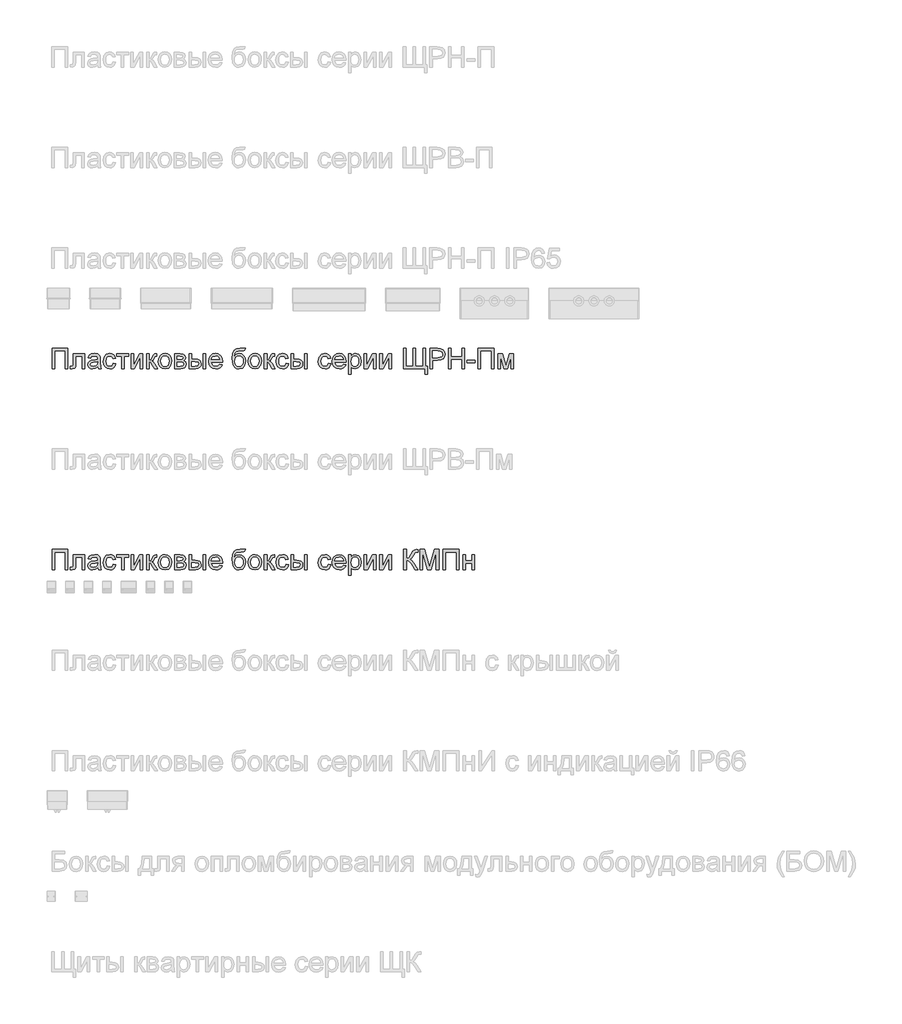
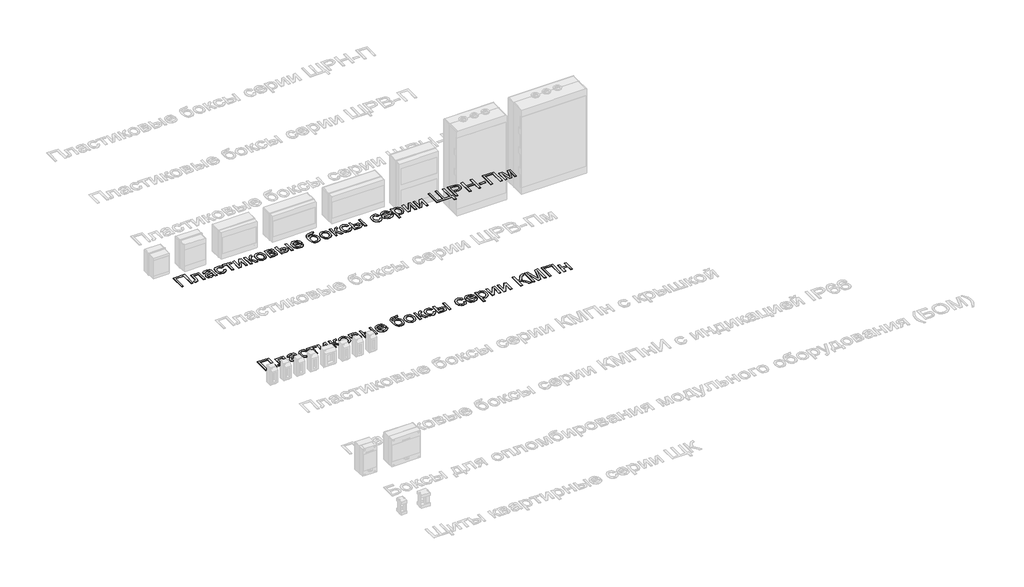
# One storey, part 23 of 25: 2 proxies.
"""IFC4 building model written with IfcOpenShell, lengths in millimetres."""

from ifc_helpers import new_model, si_unit, frame, origin, place, context, project, spatial, polyline, outline, extrude, element, save

model = new_model("IFC4")

# Units and contexts
model_context = context("Model", 3, world=origin())
ifc_project = project(units=[si_unit("LENGTHUNIT", "METRE", prefix="MILLI")], contexts=[model_context])

# Site, building, storey
site = spatial("IfcSite", under=ifc_project)
building = spatial("IfcBuilding", under=site)
storey = spatial("IfcBuildingStorey", under=building, Name="Этаж 01", Elevation=0.0)

# Proxies
placement = place(None, origin())
element("IfcBuildingElementProxy", 1, Name="Надпись на модели 1", ObjectType="Надпись на модели 1", at=placement, inside=storey, context=model_context, shape_type="SweptSolid", body=[
    extrude(outline(polyline([(-19038.1210387, 17136.6915941), (-18959.6395464, 17136.6915941), (-18959.6395464, 17036.235284), (-18972.1965852, 17036.235284), (-18972.1965852, 17124.1345554), (-19025.564, 17124.1345554), (-19025.564, 17036.235284), (-19038.1210387, 17036.235284), (-19038.1210387, 17136.6915941)])), frame((0.0, 0.0, 40.0), z_axis=(0.0, 0.0, 1.0), x_axis=(1.0, 0.0, 0.0)), (0.0, 0.0, 1.0), 2.0),
    extrude(outline(polyline([(-18932.955839, 17110.0078868), (-18876.4491646, 17110.0078868), (-18876.4491646, 17036.3088604), (-18889.0062033, 17036.3088604), (-18889.0062033, 17097.450848), (-18920.3988003, 17097.450848), (-18920.3988003, 17062.2568038), (-18921.2449289, 17046.0209451), (-18925.8925047, 17039.1660772), (-18936.8799137, 17036.235284), (-18947.0825077, 17036.8729461), (-18947.0825077, 17048.7923228), (-18941.4661759, 17048.7923228), (-18935.7885304, 17049.564875), (-18933.5199248, 17052.0174216), (-18932.955839, 17062.9680423), (-18932.955839, 17110.0078868)])), frame((0.0, 0.0, 40.0), z_axis=(0.0, 0.0, 1.0), x_axis=(1.0, 0.0, 0.0)), (0.0, 0.0, 1.0), 2.0),
    extrude(outline(polyline([(-18810.524711, 17045.6530631), (-18822.7016051, 17037.1427262), (-18836.1538234, 17034.6656541), (-18846.6476573, 17036.1555762), (-18854.3885076, 17040.6253425), (-18859.1617765, 17047.4127653), (-18860.7528661, 17055.8556571), (-18858.3493704, 17065.7884709), (-18852.0340628, 17072.998958), (-18843.2416831, 17077.1192364), (-18832.3769016, 17079.0076973), (-18810.5982874, 17083.3241794), (-18810.524711, 17086.1200825), (-18813.9828018, 17095.3907088), (-18827.8642158, 17099.0204778), (-18840.5684073, 17096.6047194), (-18846.6261975, 17088.0330689), (-18859.1832363, 17089.6026988), (-18853.7508455, 17101.8654319), (-18842.8124875, 17109.0513936), (-18826.245535, 17111.5775166), (-18811.0274831, 17109.3456992), (-18802.4313072, 17103.7416301), (-18798.5808089, 17095.2190306), (-18797.9676723, 17084.2316216), (-18797.9676723, 17068.6088996), (-18797.3300102, 17046.7934973), (-18794.8284126, 17036.235284), (-18807.3854514, 17036.235284), (-18810.524711, 17045.6530631)]), holes=[polyline([(-18810.524711, 17070.7671406), (-18830.7827462, 17066.9166424), (-18841.5862142, 17064.8810287), (-18846.4790447, 17061.5700907), (-18848.1958274, 17056.7385739), (-18844.4556937, 17049.9450197), (-18833.4805475, 17047.2226929), (-18820.776356, 17050.2270625), (-18812.5848502, 17057.4988633), (-18810.5982874, 17067.210948), (-18810.524711, 17070.7671406)])]), frame((0.0, 0.0, 40.0), z_axis=(0.0, 0.0, 1.0), x_axis=(1.0, 0.0, 0.0)), (0.0, 0.0, 1.0), 2.0),
    extrude(outline(polyline([(-18733.6128486, 17062.9189914), (-18721.0558098, 17061.3493615), (-18724.5568201, 17050.1810773), (-18731.1357765, 17041.7412512), (-18740.1734108, 17036.4345534), (-18751.0504552, 17034.6656541), (-18764.4076373, 17037.1335292), (-18774.8524202, 17044.5371544), (-18781.5938578, 17056.5515672), (-18783.8410037, 17072.8518052), (-18780.0027682, 17093.7107144), (-18768.3041207, 17107.1138817), (-18751.2221334, 17111.5775166), (-18740.6118035, 17110.044675), (-18732.1290579, 17105.44615), (-18726.0436765, 17098.0271964), (-18722.6254397, 17088.0330689), (-18735.1824784, 17086.4634391), (-18741.0072767, 17095.8689554), (-18751.1240316, 17099.0204778), (-18759.2388952, 17097.4692421), (-18765.6798958, 17092.8155349), (-18769.8829476, 17084.8079701), (-18771.2839649, 17073.1951618), (-18769.9136045, 17061.4260036), (-18765.8025232, 17053.3908477), (-18759.4780185, 17048.7647316), (-18751.4673881, 17047.2226929), (-18739.6338506, 17051.0731911), (-18733.6128486, 17062.9189914)])), frame((0.0, 0.0, 40.0), z_axis=(0.0, 0.0, 1.0), x_axis=(1.0, 0.0, 0.0)), (0.0, 0.0, 1.0), 2.0),
    extrude(outline(polyline([(-18716.3469203, 17110.0078868), (-18656.7009861, 17110.0078868), (-18656.7009861, 17097.450848), (-18680.2454338, 17097.450848), (-18680.2454338, 17036.235284), (-18692.8024726, 17036.235284), (-18692.8024726, 17097.450848), (-18716.3469203, 17097.450848), (-18716.3469203, 17110.0078868)])), frame((0.0, 0.0, 40.0), z_axis=(0.0, 0.0, 1.0), x_axis=(1.0, 0.0, 0.0)), (0.0, 0.0, 1.0), 2.0),
    extrude(outline(polyline([(-18645.7135772, 17110.0078868), (-18633.1565384, 17110.0078868), (-18633.1565384, 17053.746467), (-18602.3035018, 17110.0078868), (-18586.0676431, 17110.0078868), (-18586.0676431, 17036.235284), (-18598.6246818, 17036.235284), (-18598.6246818, 17092.1533473), (-18629.2815148, 17036.235284), (-18645.7135772, 17036.235284), (-18645.7135772, 17110.0078868)])), frame((0.0, 0.0, 40.0), z_axis=(0.0, 0.0, 1.0), x_axis=(1.0, 0.0, 0.0)), (0.0, 0.0, 1.0), 2.0),
    extrude(outline(polyline([(-18567.2320849, 17110.0078868), (-18554.6750461, 17110.0078868), (-18554.6750461, 17078.6152898), (-18546.2628112, 17080.8716327), (-18539.3711551, 17094.0172827), (-18533.6444587, 17105.3603109), (-18528.5922127, 17109.0513936), (-18519.4074255, 17110.0078868), (-18517.0039298, 17110.0078868), (-18517.0039298, 17097.3772716), (-18520.3884442, 17097.450848), (-18526.5198108, 17096.1264728), (-18530.8362928, 17087.8613906), (-18535.9008016, 17078.9218582), (-18543.0009242, 17074.5440624), (-18535.0791985, 17069.6573633), (-18527.3046257, 17059.3627988), (-18513.8646701, 17036.235284), (-18528.1384915, 17036.235284), (-18541.308667, 17058.8722894), (-18547.9305429, 17068.449484), (-18554.6750461, 17070.7671406), (-18554.6750461, 17036.235284), (-18567.2320849, 17036.235284), (-18567.2320849, 17110.0078868)])), frame((0.0, 0.0, 40.0), z_axis=(0.0, 0.0, 1.0), x_axis=(1.0, 0.0, 0.0)), (0.0, 0.0, 1.0), 2.0),
    extrude(outline(polyline([(-18509.1557806, 17073.1215854), (-18506.4395852, 17090.9086798), (-18498.290999, 17103.4105363), (-18488.2232951, 17109.5357715), (-18476.1690284, 17111.5775166), (-18462.9773932, 17109.0912475), (-18452.4406397, 17101.63244), (-18445.5336552, 17089.7897054), (-18443.2313271, 17074.151655), (-18447.3025545, 17051.8089551), (-18459.1606175, 17039.1660772), (-18476.1690284, 17034.6656541), (-18489.5200791, 17037.1427262), (-18500.0445698, 17044.5739426), (-18506.8779779, 17056.6649975), (-18509.1557806, 17073.1215854)]), holes=[polyline([(-18496.5987418, 17073.1461108), (-18495.1456079, 17061.7816229), (-18490.7862063, 17053.6851533), (-18484.2256441, 17048.838308), (-18476.1690284, 17047.2226929), (-18468.1492009, 17048.8475051), (-18461.6009014, 17053.7219415), (-18457.2414997, 17061.92571), (-18455.7883658, 17073.5385183), (-18457.2506968, 17084.5719125), (-18461.6376896, 17092.5580175), (-18468.1951861, 17097.4048627), (-18476.1690284, 17099.0204778), (-18484.2256441, 17097.4109941), (-18490.7862063, 17092.5825429), (-18495.1456079, 17084.5044674), (-18496.5987418, 17073.1461108)])]), frame((0.0, 0.0, 40.0), z_axis=(0.0, 0.0, 1.0), x_axis=(1.0, 0.0, 0.0)), (0.0, 0.0, 1.0), 2.0),
    extrude(outline(polyline([(-18429.1046584, 17110.0078868), (-18401.4399324, 17110.0078868), (-18386.2709315, 17108.3278923), (-18377.7360692, 17102.1720003), (-18374.1676138, 17091.4421087), (-18376.3258549, 17082.7233055), (-18382.8251035, 17076.5060997), (-18374.388343, 17069.7002828), (-18371.0283541, 17057.8667453), (-18373.1559383, 17048.2956821), (-18378.2143158, 17041.5573102), (-18386.2218805, 17037.5657905), (-18397.1970267, 17036.235284), (-18429.1046584, 17036.235284), (-18429.1046584, 17110.0078868)]), holes=[polyline([(-18416.5476197, 17048.7923228), (-18401.1456268, 17048.7923228), (-18387.4849421, 17051.0609284), (-18383.5853929, 17058.8968149), (-18385.7313712, 17064.9423424), (-18391.3231775, 17068.4617468), (-18402.3719001, 17069.1975108), (-18416.5476197, 17069.1975108), (-18416.5476197, 17048.7923228)]), polyline([(-18416.5476197, 17081.7545495), (-18404.1377337, 17081.7545495), (-18393.8983515, 17082.3922117), (-18388.9196818, 17084.9428602), (-18386.7246526, 17089.5536478), (-18390.5751508, 17095.7095399), (-18403.7453262, 17097.450848), (-18416.5476197, 17097.450848), (-18416.5476197, 17081.7545495)])]), frame((0.0, 0.0, 40.0), z_axis=(0.0, 0.0, 1.0), x_axis=(1.0, 0.0, 0.0)), (0.0, 0.0, 1.0), 2.0),
    extrude(outline(polyline([(-18286.2683425, 17110.0078868), (-18273.7113037, 17110.0078868), (-18273.7113037, 17036.235284), (-18286.2683425, 17036.235284), (-18286.2683425, 17110.0078868)])), frame((0.0, 0.0, 40.0), z_axis=(0.0, 0.0, 1.0), x_axis=(1.0, 0.0, 0.0)), (0.0, 0.0, 1.0), 2.0),
    extrude(outline(polyline([(-18355.3320557, 17110.0078868), (-18342.7750169, 17110.0078868), (-18342.7750169, 17083.3241794), (-18327.2503967, 17083.3241794), (-18313.8319009, 17081.7514838), (-18303.88989, 17077.0333973), (-18297.7370637, 17069.5500643), (-18295.6861215, 17059.6816298), (-18297.4059699, 17050.6961121), (-18302.5655148, 17043.1146773), (-18311.5019816, 17037.9551323), (-18324.5525954, 17036.235284), (-18355.3320557, 17036.235284), (-18355.3320557, 17110.0078868)]), holes=[polyline([(-18342.7750169, 17048.7923228), (-18329.8746216, 17048.7923228), (-18313.22183, 17051.4288104), (-18308.2431603, 17059.6571044), (-18311.934243, 17067.3826263), (-18328.2314154, 17070.7671406), (-18342.7750169, 17070.7671406), (-18342.7750169, 17048.7923228)])]), frame((0.0, 0.0, 40.0), z_axis=(0.0, 0.0, 1.0), x_axis=(1.0, 0.0, 0.0)), (0.0, 0.0, 1.0), 2.0),
    extrude(outline(polyline([(-18203.2251134, 17058.2101018), (-18190.9133293, 17056.640472), (-18195.349373, 17047.3637143), (-18202.4280358, 17040.4291387), (-18211.9899019, 17036.1065253), (-18223.8755561, 17034.6656541), (-18238.60923, 17037.1519233), (-18249.9461268, 17044.6107308), (-18257.175008, 17056.5576985), (-18259.5846351, 17072.5084487), (-18257.1504825, 17088.9956935), (-18249.8480249, 17101.3258717), (-18238.6644123, 17109.0146054), (-18224.5867946, 17111.5775166), (-18210.9475696, 17109.0207367), (-18200.0490655, 17101.3503971), (-18192.9029578, 17089.0447444), (-18190.5209218, 17072.5820251), (-18190.5944982, 17069.1975108), (-18247.0275963, 17069.1975108), (-18244.8540268, 17059.7981258), (-18239.8048465, 17052.8880756), (-18232.5177173, 17048.6390386), (-18223.6303014, 17047.2226929), (-18211.3185173, 17049.8469178), (-18203.2251134, 17058.2101018)]), holes=[polyline([(-18247.0275963, 17081.7545495), (-18203.0779606, 17081.7545495), (-18208.1056812, 17093.1343659), (-18215.4265329, 17097.5489499), (-18224.6358455, 17099.0204778), (-18240.0991521, 17094.323851), (-18244.9643914, 17088.8332123), (-18247.0275963, 17081.7545495)])]), frame((0.0, 0.0, 40.0), z_axis=(0.0, 0.0, 1.0), x_axis=(1.0, 0.0, 0.0)), (0.0, 0.0, 1.0), 2.0),
    extrude(outline(polyline([(-18086.925352, 17138.261224), (-18075.9379431, 17138.261224), (-18079.1753046, 17128.4633002), (-18085.5764513, 17124.9193703), (-18100.9539187, 17124.1345554), (-18121.6656751, 17121.2405503), (-18129.6119262, 17111.9699241), (-18132.2974647, 17095.5623871), (-18121.4204204, 17107.5798656), (-18107.4041164, 17111.5775166), (-18094.3381742, 17109.0360652), (-18083.7370414, 17101.4117108), (-18076.7104953, 17089.4524803), (-18074.3683132, 17073.9064003), (-18079.0158891, 17052.2994644), (-18090.0400862, 17039.2641791), (-18107.4041164, 17034.6656541), (-18118.7379475, 17036.1463792), (-18127.2329559, 17040.5885543), (-18138.0854748, 17055.7452925), (-18141.8623966, 17087.9104416), (-18139.4803607, 17112.0036466), (-18132.3342529, 17126.6974666), (-18120.2462637, 17134.1930623), (-18103.0385834, 17136.6915941), (-18089.0590676, 17136.973637), (-18086.925352, 17138.261224)]), holes=[polyline([(-18086.925352, 17074.2988078), (-18088.2865154, 17084.179505), (-18092.3700055, 17092.0920336), (-18098.9305678, 17097.2883668), (-18107.7229475, 17099.0204778), (-18116.8893405, 17097.1902649), (-18123.689026, 17091.6996261), (-18127.9012749, 17083.1494354), (-18129.3053578, 17072.1405667), (-18127.7541221, 17061.4689232), (-18123.1004149, 17053.6361024), (-18116.1719706, 17048.8260453), (-18107.7965239, 17047.2226929), (-18099.3781575, 17049.0774313), (-18092.7133621, 17054.6416465), (-18088.3723545, 17063.2654136), (-18086.925352, 17074.2988078)])]), frame((0.0, 0.0, 40.0), z_axis=(0.0, 0.0, 1.0), x_axis=(1.0, 0.0, 0.0)), (0.0, 0.0, 1.0), 2.0),
    extrude(outline(polyline([(-18061.8112745, 17073.1215854), (-18059.0950791, 17090.9086798), (-18050.9464929, 17103.4105363), (-18040.8787889, 17109.5357715), (-18028.8245222, 17111.5775166), (-18015.632887, 17109.0912475), (-18005.0961335, 17101.63244), (-17998.1891491, 17089.7897054), (-17995.8868209, 17074.151655), (-17999.9580483, 17051.8089551), (-18011.8161113, 17039.1660772), (-18028.8245222, 17034.6656541), (-18042.175573, 17037.1427262), (-18052.7000637, 17044.5739426), (-18059.5334718, 17056.6649975), (-18061.8112745, 17073.1215854)]), holes=[polyline([(-18049.2542357, 17073.1461108), (-18047.8011018, 17061.7816229), (-18043.4417002, 17053.6851533), (-18036.8811379, 17048.838308), (-18028.8245222, 17047.2226929), (-18020.8046947, 17048.8475051), (-18014.2563952, 17053.7219415), (-18009.8969936, 17061.92571), (-18008.4438597, 17073.5385183), (-18009.9061906, 17084.5719125), (-18014.2931834, 17092.5580175), (-18020.85068, 17097.4048627), (-18028.8245222, 17099.0204778), (-18036.8811379, 17097.4109941), (-18043.4417002, 17092.5825429), (-18047.8011018, 17084.5044674), (-18049.2542357, 17073.1461108)])]), frame((0.0, 0.0, 40.0), z_axis=(0.0, 0.0, 1.0), x_axis=(1.0, 0.0, 0.0)), (0.0, 0.0, 1.0), 2.0),
    extrude(outline(polyline([(-17981.7601523, 17110.0078868), (-17969.2031135, 17110.0078868), (-17969.2031135, 17078.6152898), (-17960.7908786, 17080.8716327), (-17953.8992225, 17094.0172827), (-17948.1725262, 17105.3603109), (-17943.1202801, 17109.0513936), (-17933.9354929, 17110.0078868), (-17931.5319972, 17110.0078868), (-17931.5319972, 17097.3772716), (-17934.9165116, 17097.450848), (-17941.0478782, 17096.1264728), (-17945.3643603, 17087.8613906), (-17950.4288691, 17078.9218582), (-17957.5289916, 17074.5440624), (-17949.6072659, 17069.6573633), (-17941.8326931, 17059.3627988), (-17928.3927375, 17036.235284), (-17942.666559, 17036.235284), (-17955.8367344, 17058.8722894), (-17962.4586103, 17068.449484), (-17969.2031135, 17070.7671406), (-17969.2031135, 17036.235284), (-17981.7601523, 17036.235284), (-17981.7601523, 17110.0078868)])), frame((0.0, 0.0, 40.0), z_axis=(0.0, 0.0, 1.0), x_axis=(1.0, 0.0, 0.0)), (0.0, 0.0, 1.0), 2.0),
    extrude(outline(polyline([(-17873.4556929, 17062.9189914), (-17860.8986542, 17061.3493615), (-17864.3996645, 17050.1810773), (-17870.9786208, 17041.7412512), (-17880.0162552, 17036.4345534), (-17890.8932995, 17034.6656541), (-17904.2504816, 17037.1335292), (-17914.6952646, 17044.5371544), (-17921.4367022, 17056.5515672), (-17923.683848, 17072.8518052), (-17919.8456125, 17093.7107144), (-17908.1469651, 17107.1138817), (-17891.0649778, 17111.5775166), (-17880.4546479, 17110.044675), (-17871.9719022, 17105.44615), (-17865.8865209, 17098.0271964), (-17862.468284, 17088.0330689), (-17875.0253228, 17086.4634391), (-17880.850121, 17095.8689554), (-17890.9668759, 17099.0204778), (-17899.0817396, 17097.4692421), (-17905.5227402, 17092.8155349), (-17909.725792, 17084.8079701), (-17911.1268092, 17073.1951618), (-17909.7564488, 17061.4260036), (-17905.6453675, 17053.3908477), (-17899.3208629, 17048.7647316), (-17891.3102324, 17047.2226929), (-17879.4766949, 17051.0731911), (-17873.4556929, 17062.9189914)])), frame((0.0, 0.0, 40.0), z_axis=(0.0, 0.0, 1.0), x_axis=(1.0, 0.0, 0.0)), (0.0, 0.0, 1.0), 2.0),
    extrude(outline(polyline([(-17780.847532, 17110.0078868), (-17768.2904932, 17110.0078868), (-17768.2904932, 17036.235284), (-17780.847532, 17036.235284), (-17780.847532, 17110.0078868)])), frame((0.0, 0.0, 40.0), z_axis=(0.0, 0.0, 1.0), x_axis=(1.0, 0.0, 0.0)), (0.0, 0.0, 1.0), 2.0),
    extrude(outline(polyline([(-17849.9112452, 17110.0078868), (-17837.3542065, 17110.0078868), (-17837.3542065, 17083.3241794), (-17821.8295863, 17083.3241794), (-17808.4110905, 17081.7514838), (-17798.4690796, 17077.0333973), (-17792.3162532, 17069.5500643), (-17790.2653111, 17059.6816298), (-17791.9851594, 17050.6961121), (-17797.1447044, 17043.1146773), (-17806.0811712, 17037.9551323), (-17819.131785, 17036.235284), (-17849.9112452, 17036.235284), (-17849.9112452, 17110.0078868)]), holes=[polyline([(-17837.3542065, 17048.7923228), (-17824.4538112, 17048.7923228), (-17807.8010195, 17051.4288104), (-17802.8223499, 17059.6571044), (-17806.5134325, 17067.3826263), (-17822.8106049, 17070.7671406), (-17837.3542065, 17070.7671406), (-17837.3542065, 17048.7923228)])]), frame((0.0, 0.0, 40.0), z_axis=(0.0, 0.0, 1.0), x_axis=(1.0, 0.0, 0.0)), (0.0, 0.0, 1.0), 2.0),
    extrude(outline(polyline([(-17663.1252936, 17062.9189914), (-17650.5682548, 17061.3493615), (-17654.0692651, 17050.1810773), (-17660.6482215, 17041.7412512), (-17669.6858558, 17036.4345534), (-17680.5629001, 17034.6656541), (-17693.9200822, 17037.1335292), (-17704.3648652, 17044.5371544), (-17711.1063028, 17056.5515672), (-17713.3534486, 17072.8518052), (-17709.5152131, 17093.7107144), (-17697.8165657, 17107.1138817), (-17680.7345784, 17111.5775166), (-17670.1242485, 17110.044675), (-17661.6415028, 17105.44615), (-17655.5561215, 17098.0271964), (-17652.1378846, 17088.0330689), (-17664.6949234, 17086.4634391), (-17670.5197217, 17095.8689554), (-17680.6364765, 17099.0204778), (-17688.7513402, 17097.4692421), (-17695.1923408, 17092.8155349), (-17699.3953926, 17084.8079701), (-17700.7964099, 17073.1951618), (-17699.4260494, 17061.4260036), (-17695.3149681, 17053.3908477), (-17688.9904635, 17048.7647316), (-17680.9798331, 17047.2226929), (-17669.1462955, 17051.0731911), (-17663.1252936, 17062.9189914)])), frame((0.0, 0.0, 40.0), z_axis=(0.0, 0.0, 1.0), x_axis=(1.0, 0.0, 0.0)), (0.0, 0.0, 1.0), 2.0),
    extrude(outline(polyline([(-17587.9302137, 17058.2101018), (-17575.6184296, 17056.640472), (-17580.0544734, 17047.3637143), (-17587.1331361, 17040.4291387), (-17596.6950023, 17036.1065253), (-17608.5806564, 17034.6656541), (-17623.3143303, 17037.1519233), (-17634.6512271, 17044.6107308), (-17641.8801083, 17056.5576985), (-17644.2897354, 17072.5084487), (-17641.8555829, 17088.9956935), (-17634.5531253, 17101.3258717), (-17623.3695126, 17109.0146054), (-17609.2918949, 17111.5775166), (-17595.65267, 17109.0207367), (-17584.7541658, 17101.3503971), (-17577.6080581, 17089.0447444), (-17575.2260222, 17072.5820251), (-17575.2995986, 17069.1975108), (-17631.7326966, 17069.1975108), (-17629.5591272, 17059.7981258), (-17624.5099468, 17052.8880756), (-17617.2228176, 17048.6390386), (-17608.3354017, 17047.2226929), (-17596.0236176, 17049.8469178), (-17587.9302137, 17058.2101018)]), holes=[polyline([(-17631.7326966, 17081.7545495), (-17587.7830609, 17081.7545495), (-17592.8107815, 17093.1343659), (-17600.1316332, 17097.5489499), (-17609.3409459, 17099.0204778), (-17624.8042524, 17094.323851), (-17629.6694918, 17088.8332123), (-17631.7326966, 17081.7545495)])]), frame((0.0, 0.0, 40.0), z_axis=(0.0, 0.0, 1.0), x_axis=(1.0, 0.0, 0.0)), (0.0, 0.0, 1.0), 2.0),
    extrude(outline(polyline([(-17562.6689834, 17007.9819468), (-17562.6689834, 17110.0078868), (-17550.1119446, 17110.0078868), (-17550.1119446, 17097.6961027), (-17541.4299296, 17108.1071631), (-17529.7067566, 17111.5775166), (-17513.789729, 17106.7214743), (-17503.3909312, 17093.036264), (-17499.8837896, 17073.6856711), (-17503.8446524, 17053.3417968), (-17515.3470961, 17039.4849083), (-17531.2273356, 17034.6656541), (-17542.1534308, 17037.890753), (-17550.1119446, 17046.0454705), (-17550.1119446, 17007.9819468), (-17562.6689834, 17007.9819468)]), holes=[polyline([(-17550.1119446, 17072.5329742), (-17548.7538469, 17061.2757851), (-17544.6795538, 17053.4031104), (-17538.6677489, 17048.7677973), (-17531.4971157, 17047.2226929), (-17524.2099865, 17048.8229796), (-17518.0448974, 17053.6238396), (-17513.8418456, 17061.7846886), (-17512.4408283, 17073.4649419), (-17513.8081231, 17084.6608173), (-17517.9100073, 17092.6438566), (-17523.9126152, 17097.4263225), (-17530.9820809, 17099.0204778), (-17538.0791377, 17097.325155), (-17544.3116718, 17092.2391864), (-17548.6618764, 17083.9219876), (-17550.1119446, 17072.5329742)])]), frame((0.0, 0.0, 40.0), z_axis=(0.0, 0.0, 1.0), x_axis=(1.0, 0.0, 0.0)), (0.0, 0.0, 1.0), 2.0),
    extrude(outline(polyline([(-17485.7571209, 17110.0078868), (-17473.2000822, 17110.0078868), (-17473.2000822, 17053.746467), (-17442.3470455, 17110.0078868), (-17426.1111868, 17110.0078868), (-17426.1111868, 17036.235284), (-17438.6682256, 17036.235284), (-17438.6682256, 17092.1533473), (-17469.3250585, 17036.235284), (-17485.7571209, 17036.235284), (-17485.7571209, 17110.0078868)])), frame((0.0, 0.0, 40.0), z_axis=(0.0, 0.0, 1.0), x_axis=(1.0, 0.0, 0.0)), (0.0, 0.0, 1.0), 2.0),
    extrude(outline(polyline([(-17407.2756286, 17110.0078868), (-17394.7185899, 17110.0078868), (-17394.7185899, 17053.746467), (-17363.8655532, 17110.0078868), (-17347.6296945, 17110.0078868), (-17347.6296945, 17036.235284), (-17360.1867333, 17036.235284), (-17360.1867333, 17092.1533473), (-17390.8435662, 17036.235284), (-17407.2756286, 17036.235284), (-17407.2756286, 17110.0078868)])), frame((0.0, 0.0, 40.0), z_axis=(0.0, 0.0, 1.0), x_axis=(1.0, 0.0, 0.0)), (0.0, 0.0, 1.0), 2.0),
    extrude(outline(polyline([(-17289.5533902, 17136.6915941), (-17276.9963514, 17136.6915941), (-17276.9963514, 17048.7923228), (-17240.894865, 17048.7923228), (-17240.894865, 17136.6915941), (-17228.3378262, 17136.6915941), (-17228.3378262, 17048.7923228), (-17192.2363397, 17048.7923228), (-17192.2363397, 17136.6915941), (-17179.679301, 17136.6915941), (-17179.679301, 17048.7923228), (-17170.2615219, 17048.7923228), (-17170.2615219, 17007.9819468), (-17182.8185607, 17007.9819468), (-17182.8185607, 17036.235284), (-17289.5533902, 17036.235284), (-17289.5533902, 17136.6915941)])), frame((0.0, 0.0, 40.0), z_axis=(0.0, 0.0, 1.0), x_axis=(1.0, 0.0, 0.0)), (0.0, 0.0, 1.0), 2.0),
    extrude(outline(polyline([(-17157.7044831, 17036.235284), (-17157.7044831, 17136.6915941), (-17120.4748252, 17136.6915941), (-17105.4652398, 17135.735101), (-17093.2638203, 17131.0384742), (-17085.3543574, 17121.3263895), (-17082.3622505, 17107.6289165), (-17084.3825358, 17095.7892476), (-17090.4433917, 17085.9238788), (-17101.7772228, 17079.2652147), (-17119.6164339, 17077.04566), (-17145.1474443, 17077.04566), (-17145.1474443, 17036.235284), (-17157.7044831, 17036.235284)]), holes=[polyline([(-17145.1474443, 17089.6026988), (-17118.8806699, 17089.6026988), (-17100.3884683, 17094.2134864), (-17096.286584, 17099.7623732), (-17094.9192893, 17107.1874581), (-17098.1443881, 17117.5862559), (-17106.6179367, 17123.2761641), (-17119.1749755, 17124.1345554), (-17145.1474443, 17124.1345554), (-17145.1474443, 17089.6026988)])]), frame((0.0, 0.0, 40.0), z_axis=(0.0, 0.0, 1.0), x_axis=(1.0, 0.0, 0.0)), (0.0, 0.0, 1.0), 2.0),
    extrude(outline(polyline([(-17065.0963222, 17036.235284), (-17065.0963222, 17136.6915941), (-17052.5392834, 17136.6915941), (-17052.5392834, 17095.8812181), (-16999.1718687, 17095.8812181), (-16999.1718687, 17136.6915941), (-16986.6148299, 17136.6915941), (-16986.6148299, 17036.235284), (-16999.1718687, 17036.235284), (-16999.1718687, 17083.3241794), (-17052.5392834, 17083.3241794), (-17052.5392834, 17036.235284), (-17065.0963222, 17036.235284)])), frame((0.0, 0.0, 40.0), z_axis=(0.0, 0.0, 1.0), x_axis=(1.0, 0.0, 0.0)), (0.0, 0.0, 1.0), 2.0),
    extrude(outline(polyline([(-16972.4881613, 17066.0582511), (-16972.4881613, 17078.6152898), (-16933.2474151, 17078.6152898), (-16933.2474151, 17066.0582511), (-16972.4881613, 17066.0582511)])), frame((0.0, 0.0, 40.0), z_axis=(0.0, 0.0, 1.0), x_axis=(1.0, 0.0, 0.0)), (0.0, 0.0, 1.0), 2.0),
    extrude(outline(polyline([(-16917.5511167, 17136.6915941), (-16839.0696244, 17136.6915941), (-16839.0696244, 17036.235284), (-16851.6266631, 17036.235284), (-16851.6266631, 17124.1345554), (-16904.9940779, 17124.1345554), (-16904.9940779, 17036.235284), (-16917.5511167, 17036.235284), (-16917.5511167, 17136.6915941)])), frame((0.0, 0.0, 40.0), z_axis=(0.0, 0.0, 1.0), x_axis=(1.0, 0.0, 0.0)), (0.0, 0.0, 1.0), 2.0),
    extrude(outline(polyline([(-16818.6644364, 17110.0078868), (-16797.0575005, 17110.0078868), (-16780.4047089, 17050.9505638), (-16762.4520675, 17110.0078868), (-16741.7525739, 17110.0078868), (-16741.7525739, 17036.235284), (-16754.3096127, 17036.235284), (-16754.3096127, 17095.6359635), (-16772.3603559, 17036.235284), (-16788.8414693, 17036.235284), (-16806.1073976, 17098.4809176), (-16806.1073976, 17036.235284), (-16818.6644364, 17036.235284), (-16818.6644364, 17110.0078868)])), frame((0.0, 0.0, 40.0), z_axis=(0.0, 0.0, 1.0), x_axis=(1.0, 0.0, 0.0)), (0.0, 0.0, 1.0), 2.0),
])
element("IfcBuildingElementProxy", 2, Name="Надпись на модели 1", ObjectType="Надпись на модели 1", at=placement, inside=storey, context=model_context, shape_type="SweptSolid", body=[
    extrude(outline(polyline([(-19038.1210387, 16136.6915941), (-18959.6395464, 16136.6915941), (-18959.6395464, 16036.235284), (-18972.1965852, 16036.235284), (-18972.1965852, 16124.1345554), (-19025.564, 16124.1345554), (-19025.564, 16036.235284), (-19038.1210387, 16036.235284), (-19038.1210387, 16136.6915941)])), frame((0.0, 0.0, 40.0), z_axis=(0.0, 0.0, 1.0), x_axis=(1.0, 0.0, 0.0)), (0.0, 0.0, 1.0), 2.0),
    extrude(outline(polyline([(-18932.955839, 16110.0078868), (-18876.4491646, 16110.0078868), (-18876.4491646, 16036.3088604), (-18889.0062033, 16036.3088604), (-18889.0062033, 16097.450848), (-18920.3988003, 16097.450848), (-18920.3988003, 16062.2568038), (-18921.2449289, 16046.0209451), (-18925.8925047, 16039.1660772), (-18936.8799137, 16036.235284), (-18947.0825077, 16036.8729461), (-18947.0825077, 16048.7923228), (-18941.4661759, 16048.7923228), (-18935.7885304, 16049.564875), (-18933.5199248, 16052.0174216), (-18932.955839, 16062.9680423), (-18932.955839, 16110.0078868)])), frame((0.0, 0.0, 40.0), z_axis=(0.0, 0.0, 1.0), x_axis=(1.0, 0.0, 0.0)), (0.0, 0.0, 1.0), 2.0),
    extrude(outline(polyline([(-18810.524711, 16045.6530631), (-18822.7016051, 16037.1427262), (-18836.1538234, 16034.6656541), (-18846.6476573, 16036.1555762), (-18854.3885076, 16040.6253425), (-18859.1617765, 16047.4127653), (-18860.7528661, 16055.8556571), (-18858.3493704, 16065.7884709), (-18852.0340628, 16072.998958), (-18843.2416831, 16077.1192364), (-18832.3769016, 16079.0076973), (-18810.5982874, 16083.3241794), (-18810.524711, 16086.1200825), (-18813.9828018, 16095.3907088), (-18827.8642158, 16099.0204778), (-18840.5684073, 16096.6047194), (-18846.6261975, 16088.0330689), (-18859.1832363, 16089.6026988), (-18853.7508455, 16101.8654319), (-18842.8124875, 16109.0513936), (-18826.245535, 16111.5775166), (-18811.0274831, 16109.3456992), (-18802.4313072, 16103.7416301), (-18798.5808089, 16095.2190306), (-18797.9676723, 16084.2316216), (-18797.9676723, 16068.6088996), (-18797.3300102, 16046.7934973), (-18794.8284126, 16036.235284), (-18807.3854514, 16036.235284), (-18810.524711, 16045.6530631)]), holes=[polyline([(-18810.524711, 16070.7671406), (-18830.7827462, 16066.9166424), (-18841.5862142, 16064.8810287), (-18846.4790447, 16061.5700907), (-18848.1958274, 16056.7385739), (-18844.4556937, 16049.9450197), (-18833.4805475, 16047.2226929), (-18820.776356, 16050.2270625), (-18812.5848502, 16057.4988633), (-18810.5982874, 16067.210948), (-18810.524711, 16070.7671406)])]), frame((0.0, 0.0, 40.0), z_axis=(0.0, 0.0, 1.0), x_axis=(1.0, 0.0, 0.0)), (0.0, 0.0, 1.0), 2.0),
    extrude(outline(polyline([(-18733.6128486, 16062.9189914), (-18721.0558098, 16061.3493615), (-18724.5568201, 16050.1810773), (-18731.1357765, 16041.7412512), (-18740.1734108, 16036.4345534), (-18751.0504552, 16034.6656541), (-18764.4076373, 16037.1335292), (-18774.8524202, 16044.5371544), (-18781.5938578, 16056.5515672), (-18783.8410037, 16072.8518052), (-18780.0027682, 16093.7107144), (-18768.3041207, 16107.1138817), (-18751.2221334, 16111.5775166), (-18740.6118035, 16110.044675), (-18732.1290579, 16105.44615), (-18726.0436765, 16098.0271964), (-18722.6254397, 16088.0330689), (-18735.1824784, 16086.4634391), (-18741.0072767, 16095.8689554), (-18751.1240316, 16099.0204778), (-18759.2388952, 16097.4692421), (-18765.6798958, 16092.8155349), (-18769.8829476, 16084.8079701), (-18771.2839649, 16073.1951618), (-18769.9136045, 16061.4260036), (-18765.8025232, 16053.3908477), (-18759.4780185, 16048.7647316), (-18751.4673881, 16047.2226929), (-18739.6338506, 16051.0731911), (-18733.6128486, 16062.9189914)])), frame((0.0, 0.0, 40.0), z_axis=(0.0, 0.0, 1.0), x_axis=(1.0, 0.0, 0.0)), (0.0, 0.0, 1.0), 2.0),
    extrude(outline(polyline([(-18716.3469203, 16110.0078868), (-18656.7009861, 16110.0078868), (-18656.7009861, 16097.450848), (-18680.2454338, 16097.450848), (-18680.2454338, 16036.235284), (-18692.8024726, 16036.235284), (-18692.8024726, 16097.450848), (-18716.3469203, 16097.450848), (-18716.3469203, 16110.0078868)])), frame((0.0, 0.0, 40.0), z_axis=(0.0, 0.0, 1.0), x_axis=(1.0, 0.0, 0.0)), (0.0, 0.0, 1.0), 2.0),
    extrude(outline(polyline([(-18645.7135772, 16110.0078868), (-18633.1565384, 16110.0078868), (-18633.1565384, 16053.746467), (-18602.3035018, 16110.0078868), (-18586.0676431, 16110.0078868), (-18586.0676431, 16036.235284), (-18598.6246818, 16036.235284), (-18598.6246818, 16092.1533473), (-18629.2815148, 16036.235284), (-18645.7135772, 16036.235284), (-18645.7135772, 16110.0078868)])), frame((0.0, 0.0, 40.0), z_axis=(0.0, 0.0, 1.0), x_axis=(1.0, 0.0, 0.0)), (0.0, 0.0, 1.0), 2.0),
    extrude(outline(polyline([(-18567.2320849, 16110.0078868), (-18554.6750461, 16110.0078868), (-18554.6750461, 16078.6152898), (-18546.2628112, 16080.8716327), (-18539.3711551, 16094.0172827), (-18533.6444587, 16105.3603109), (-18528.5922127, 16109.0513936), (-18519.4074255, 16110.0078868), (-18517.0039298, 16110.0078868), (-18517.0039298, 16097.3772716), (-18520.3884442, 16097.450848), (-18526.5198108, 16096.1264728), (-18530.8362928, 16087.8613906), (-18535.9008016, 16078.9218582), (-18543.0009242, 16074.5440624), (-18535.0791985, 16069.6573633), (-18527.3046257, 16059.3627988), (-18513.8646701, 16036.235284), (-18528.1384915, 16036.235284), (-18541.308667, 16058.8722894), (-18547.9305429, 16068.449484), (-18554.6750461, 16070.7671406), (-18554.6750461, 16036.235284), (-18567.2320849, 16036.235284), (-18567.2320849, 16110.0078868)])), frame((0.0, 0.0, 40.0), z_axis=(0.0, 0.0, 1.0), x_axis=(1.0, 0.0, 0.0)), (0.0, 0.0, 1.0), 2.0),
    extrude(outline(polyline([(-18509.1557806, 16073.1215854), (-18506.4395852, 16090.9086798), (-18498.290999, 16103.4105363), (-18488.2232951, 16109.5357715), (-18476.1690284, 16111.5775166), (-18462.9773932, 16109.0912475), (-18452.4406397, 16101.63244), (-18445.5336552, 16089.7897054), (-18443.2313271, 16074.151655), (-18447.3025545, 16051.8089551), (-18459.1606175, 16039.1660772), (-18476.1690284, 16034.6656541), (-18489.5200791, 16037.1427262), (-18500.0445698, 16044.5739426), (-18506.8779779, 16056.6649975), (-18509.1557806, 16073.1215854)]), holes=[polyline([(-18496.5987418, 16073.1461108), (-18495.1456079, 16061.7816229), (-18490.7862063, 16053.6851533), (-18484.2256441, 16048.838308), (-18476.1690284, 16047.2226929), (-18468.1492009, 16048.8475051), (-18461.6009014, 16053.7219415), (-18457.2414997, 16061.92571), (-18455.7883658, 16073.5385183), (-18457.2506968, 16084.5719125), (-18461.6376896, 16092.5580175), (-18468.1951861, 16097.4048627), (-18476.1690284, 16099.0204778), (-18484.2256441, 16097.4109941), (-18490.7862063, 16092.5825429), (-18495.1456079, 16084.5044674), (-18496.5987418, 16073.1461108)])]), frame((0.0, 0.0, 40.0), z_axis=(0.0, 0.0, 1.0), x_axis=(1.0, 0.0, 0.0)), (0.0, 0.0, 1.0), 2.0),
    extrude(outline(polyline([(-18429.1046584, 16110.0078868), (-18401.4399324, 16110.0078868), (-18386.2709315, 16108.3278923), (-18377.7360692, 16102.1720003), (-18374.1676138, 16091.4421087), (-18376.3258549, 16082.7233055), (-18382.8251035, 16076.5060997), (-18374.388343, 16069.7002828), (-18371.0283541, 16057.8667453), (-18373.1559383, 16048.2956821), (-18378.2143158, 16041.5573102), (-18386.2218805, 16037.5657905), (-18397.1970267, 16036.235284), (-18429.1046584, 16036.235284), (-18429.1046584, 16110.0078868)]), holes=[polyline([(-18416.5476197, 16048.7923228), (-18401.1456268, 16048.7923228), (-18387.4849421, 16051.0609284), (-18383.5853929, 16058.8968149), (-18385.7313712, 16064.9423424), (-18391.3231775, 16068.4617468), (-18402.3719001, 16069.1975108), (-18416.5476197, 16069.1975108), (-18416.5476197, 16048.7923228)]), polyline([(-18416.5476197, 16081.7545495), (-18404.1377337, 16081.7545495), (-18393.8983515, 16082.3922117), (-18388.9196818, 16084.9428602), (-18386.7246526, 16089.5536478), (-18390.5751508, 16095.7095399), (-18403.7453262, 16097.450848), (-18416.5476197, 16097.450848), (-18416.5476197, 16081.7545495)])]), frame((0.0, 0.0, 40.0), z_axis=(0.0, 0.0, 1.0), x_axis=(1.0, 0.0, 0.0)), (0.0, 0.0, 1.0), 2.0),
    extrude(outline(polyline([(-18286.2683425, 16110.0078868), (-18273.7113037, 16110.0078868), (-18273.7113037, 16036.235284), (-18286.2683425, 16036.235284), (-18286.2683425, 16110.0078868)])), frame((0.0, 0.0, 40.0), z_axis=(0.0, 0.0, 1.0), x_axis=(1.0, 0.0, 0.0)), (0.0, 0.0, 1.0), 2.0),
    extrude(outline(polyline([(-18355.3320557, 16110.0078868), (-18342.7750169, 16110.0078868), (-18342.7750169, 16083.3241794), (-18327.2503967, 16083.3241794), (-18313.8319009, 16081.7514838), (-18303.88989, 16077.0333973), (-18297.7370637, 16069.5500643), (-18295.6861215, 16059.6816298), (-18297.4059699, 16050.6961121), (-18302.5655148, 16043.1146773), (-18311.5019816, 16037.9551323), (-18324.5525954, 16036.235284), (-18355.3320557, 16036.235284), (-18355.3320557, 16110.0078868)]), holes=[polyline([(-18342.7750169, 16048.7923228), (-18329.8746216, 16048.7923228), (-18313.22183, 16051.4288104), (-18308.2431603, 16059.6571044), (-18311.934243, 16067.3826263), (-18328.2314154, 16070.7671406), (-18342.7750169, 16070.7671406), (-18342.7750169, 16048.7923228)])]), frame((0.0, 0.0, 40.0), z_axis=(0.0, 0.0, 1.0), x_axis=(1.0, 0.0, 0.0)), (0.0, 0.0, 1.0), 2.0),
    extrude(outline(polyline([(-18203.2251134, 16058.2101018), (-18190.9133293, 16056.640472), (-18195.349373, 16047.3637143), (-18202.4280358, 16040.4291387), (-18211.9899019, 16036.1065253), (-18223.8755561, 16034.6656541), (-18238.60923, 16037.1519233), (-18249.9461268, 16044.6107308), (-18257.175008, 16056.5576985), (-18259.5846351, 16072.5084487), (-18257.1504825, 16088.9956935), (-18249.8480249, 16101.3258717), (-18238.6644123, 16109.0146054), (-18224.5867946, 16111.5775166), (-18210.9475696, 16109.0207367), (-18200.0490655, 16101.3503971), (-18192.9029578, 16089.0447444), (-18190.5209218, 16072.5820251), (-18190.5944982, 16069.1975108), (-18247.0275963, 16069.1975108), (-18244.8540268, 16059.7981258), (-18239.8048465, 16052.8880756), (-18232.5177173, 16048.6390386), (-18223.6303014, 16047.2226929), (-18211.3185173, 16049.8469178), (-18203.2251134, 16058.2101018)]), holes=[polyline([(-18247.0275963, 16081.7545495), (-18203.0779606, 16081.7545495), (-18208.1056812, 16093.1343659), (-18215.4265329, 16097.5489499), (-18224.6358455, 16099.0204778), (-18240.0991521, 16094.323851), (-18244.9643914, 16088.8332123), (-18247.0275963, 16081.7545495)])]), frame((0.0, 0.0, 40.0), z_axis=(0.0, 0.0, 1.0), x_axis=(1.0, 0.0, 0.0)), (0.0, 0.0, 1.0), 2.0),
    extrude(outline(polyline([(-18086.925352, 16138.261224), (-18075.9379431, 16138.261224), (-18079.1753046, 16128.4633002), (-18085.5764513, 16124.9193703), (-18100.9539187, 16124.1345554), (-18121.6656751, 16121.2405503), (-18129.6119262, 16111.9699241), (-18132.2974647, 16095.5623871), (-18121.4204204, 16107.5798656), (-18107.4041164, 16111.5775166), (-18094.3381742, 16109.0360652), (-18083.7370414, 16101.4117108), (-18076.7104953, 16089.4524803), (-18074.3683132, 16073.9064003), (-18079.0158891, 16052.2994644), (-18090.0400862, 16039.2641791), (-18107.4041164, 16034.6656541), (-18118.7379475, 16036.1463792), (-18127.2329559, 16040.5885543), (-18138.0854748, 16055.7452925), (-18141.8623966, 16087.9104416), (-18139.4803607, 16112.0036466), (-18132.3342529, 16126.6974666), (-18120.2462637, 16134.1930623), (-18103.0385834, 16136.6915941), (-18089.0590676, 16136.973637), (-18086.925352, 16138.261224)]), holes=[polyline([(-18086.925352, 16074.2988078), (-18088.2865154, 16084.179505), (-18092.3700055, 16092.0920336), (-18098.9305678, 16097.2883668), (-18107.7229475, 16099.0204778), (-18116.8893405, 16097.1902649), (-18123.689026, 16091.6996261), (-18127.9012749, 16083.1494354), (-18129.3053578, 16072.1405667), (-18127.7541221, 16061.4689232), (-18123.1004149, 16053.6361024), (-18116.1719706, 16048.8260453), (-18107.7965239, 16047.2226929), (-18099.3781575, 16049.0774313), (-18092.7133621, 16054.6416465), (-18088.3723545, 16063.2654136), (-18086.925352, 16074.2988078)])]), frame((0.0, 0.0, 40.0), z_axis=(0.0, 0.0, 1.0), x_axis=(1.0, 0.0, 0.0)), (0.0, 0.0, 1.0), 2.0),
    extrude(outline(polyline([(-18061.8112745, 16073.1215854), (-18059.0950791, 16090.9086798), (-18050.9464929, 16103.4105363), (-18040.8787889, 16109.5357715), (-18028.8245222, 16111.5775166), (-18015.632887, 16109.0912475), (-18005.0961335, 16101.63244), (-17998.1891491, 16089.7897054), (-17995.8868209, 16074.151655), (-17999.9580483, 16051.8089551), (-18011.8161113, 16039.1660772), (-18028.8245222, 16034.6656541), (-18042.175573, 16037.1427262), (-18052.7000637, 16044.5739426), (-18059.5334718, 16056.6649975), (-18061.8112745, 16073.1215854)]), holes=[polyline([(-18049.2542357, 16073.1461108), (-18047.8011018, 16061.7816229), (-18043.4417002, 16053.6851533), (-18036.8811379, 16048.838308), (-18028.8245222, 16047.2226929), (-18020.8046947, 16048.8475051), (-18014.2563952, 16053.7219415), (-18009.8969936, 16061.92571), (-18008.4438597, 16073.5385183), (-18009.9061906, 16084.5719125), (-18014.2931834, 16092.5580175), (-18020.85068, 16097.4048627), (-18028.8245222, 16099.0204778), (-18036.8811379, 16097.4109941), (-18043.4417002, 16092.5825429), (-18047.8011018, 16084.5044674), (-18049.2542357, 16073.1461108)])]), frame((0.0, 0.0, 40.0), z_axis=(0.0, 0.0, 1.0), x_axis=(1.0, 0.0, 0.0)), (0.0, 0.0, 1.0), 2.0),
    extrude(outline(polyline([(-17981.7601523, 16110.0078868), (-17969.2031135, 16110.0078868), (-17969.2031135, 16078.6152898), (-17960.7908786, 16080.8716327), (-17953.8992225, 16094.0172827), (-17948.1725262, 16105.3603109), (-17943.1202801, 16109.0513936), (-17933.9354929, 16110.0078868), (-17931.5319972, 16110.0078868), (-17931.5319972, 16097.3772716), (-17934.9165116, 16097.450848), (-17941.0478782, 16096.1264728), (-17945.3643603, 16087.8613906), (-17950.4288691, 16078.9218582), (-17957.5289916, 16074.5440624), (-17949.6072659, 16069.6573633), (-17941.8326931, 16059.3627988), (-17928.3927375, 16036.235284), (-17942.666559, 16036.235284), (-17955.8367344, 16058.8722894), (-17962.4586103, 16068.449484), (-17969.2031135, 16070.7671406), (-17969.2031135, 16036.235284), (-17981.7601523, 16036.235284), (-17981.7601523, 16110.0078868)])), frame((0.0, 0.0, 40.0), z_axis=(0.0, 0.0, 1.0), x_axis=(1.0, 0.0, 0.0)), (0.0, 0.0, 1.0), 2.0),
    extrude(outline(polyline([(-17873.4556929, 16062.9189914), (-17860.8986542, 16061.3493615), (-17864.3996645, 16050.1810773), (-17870.9786208, 16041.7412512), (-17880.0162552, 16036.4345534), (-17890.8932995, 16034.6656541), (-17904.2504816, 16037.1335292), (-17914.6952646, 16044.5371544), (-17921.4367022, 16056.5515672), (-17923.683848, 16072.8518052), (-17919.8456125, 16093.7107144), (-17908.1469651, 16107.1138817), (-17891.0649778, 16111.5775166), (-17880.4546479, 16110.044675), (-17871.9719022, 16105.44615), (-17865.8865209, 16098.0271964), (-17862.468284, 16088.0330689), (-17875.0253228, 16086.4634391), (-17880.850121, 16095.8689554), (-17890.9668759, 16099.0204778), (-17899.0817396, 16097.4692421), (-17905.5227402, 16092.8155349), (-17909.725792, 16084.8079701), (-17911.1268092, 16073.1951618), (-17909.7564488, 16061.4260036), (-17905.6453675, 16053.3908477), (-17899.3208629, 16048.7647316), (-17891.3102324, 16047.2226929), (-17879.4766949, 16051.0731911), (-17873.4556929, 16062.9189914)])), frame((0.0, 0.0, 40.0), z_axis=(0.0, 0.0, 1.0), x_axis=(1.0, 0.0, 0.0)), (0.0, 0.0, 1.0), 2.0),
    extrude(outline(polyline([(-17780.847532, 16110.0078868), (-17768.2904932, 16110.0078868), (-17768.2904932, 16036.235284), (-17780.847532, 16036.235284), (-17780.847532, 16110.0078868)])), frame((0.0, 0.0, 40.0), z_axis=(0.0, 0.0, 1.0), x_axis=(1.0, 0.0, 0.0)), (0.0, 0.0, 1.0), 2.0),
    extrude(outline(polyline([(-17849.9112452, 16110.0078868), (-17837.3542065, 16110.0078868), (-17837.3542065, 16083.3241794), (-17821.8295863, 16083.3241794), (-17808.4110905, 16081.7514838), (-17798.4690796, 16077.0333973), (-17792.3162532, 16069.5500643), (-17790.2653111, 16059.6816298), (-17791.9851594, 16050.6961121), (-17797.1447044, 16043.1146773), (-17806.0811712, 16037.9551323), (-17819.131785, 16036.235284), (-17849.9112452, 16036.235284), (-17849.9112452, 16110.0078868)]), holes=[polyline([(-17837.3542065, 16048.7923228), (-17824.4538112, 16048.7923228), (-17807.8010195, 16051.4288104), (-17802.8223499, 16059.6571044), (-17806.5134325, 16067.3826263), (-17822.8106049, 16070.7671406), (-17837.3542065, 16070.7671406), (-17837.3542065, 16048.7923228)])]), frame((0.0, 0.0, 40.0), z_axis=(0.0, 0.0, 1.0), x_axis=(1.0, 0.0, 0.0)), (0.0, 0.0, 1.0), 2.0),
    extrude(outline(polyline([(-17663.1252936, 16062.9189914), (-17650.5682548, 16061.3493615), (-17654.0692651, 16050.1810773), (-17660.6482215, 16041.7412512), (-17669.6858558, 16036.4345534), (-17680.5629001, 16034.6656541), (-17693.9200822, 16037.1335292), (-17704.3648652, 16044.5371544), (-17711.1063028, 16056.5515672), (-17713.3534486, 16072.8518052), (-17709.5152131, 16093.7107144), (-17697.8165657, 16107.1138817), (-17680.7345784, 16111.5775166), (-17670.1242485, 16110.044675), (-17661.6415028, 16105.44615), (-17655.5561215, 16098.0271964), (-17652.1378846, 16088.0330689), (-17664.6949234, 16086.4634391), (-17670.5197217, 16095.8689554), (-17680.6364765, 16099.0204778), (-17688.7513402, 16097.4692421), (-17695.1923408, 16092.8155349), (-17699.3953926, 16084.8079701), (-17700.7964099, 16073.1951618), (-17699.4260494, 16061.4260036), (-17695.3149681, 16053.3908477), (-17688.9904635, 16048.7647316), (-17680.9798331, 16047.2226929), (-17669.1462955, 16051.0731911), (-17663.1252936, 16062.9189914)])), frame((0.0, 0.0, 40.0), z_axis=(0.0, 0.0, 1.0), x_axis=(1.0, 0.0, 0.0)), (0.0, 0.0, 1.0), 2.0),
    extrude(outline(polyline([(-17587.9302137, 16058.2101018), (-17575.6184296, 16056.640472), (-17580.0544734, 16047.3637143), (-17587.1331361, 16040.4291387), (-17596.6950023, 16036.1065253), (-17608.5806564, 16034.6656541), (-17623.3143303, 16037.1519233), (-17634.6512271, 16044.6107308), (-17641.8801083, 16056.5576985), (-17644.2897354, 16072.5084487), (-17641.8555829, 16088.9956935), (-17634.5531253, 16101.3258717), (-17623.3695126, 16109.0146054), (-17609.2918949, 16111.5775166), (-17595.65267, 16109.0207367), (-17584.7541658, 16101.3503971), (-17577.6080581, 16089.0447444), (-17575.2260222, 16072.5820251), (-17575.2995986, 16069.1975108), (-17631.7326966, 16069.1975108), (-17629.5591272, 16059.7981258), (-17624.5099468, 16052.8880756), (-17617.2228176, 16048.6390386), (-17608.3354017, 16047.2226929), (-17596.0236176, 16049.8469178), (-17587.9302137, 16058.2101018)]), holes=[polyline([(-17631.7326966, 16081.7545495), (-17587.7830609, 16081.7545495), (-17592.8107815, 16093.1343659), (-17600.1316332, 16097.5489499), (-17609.3409459, 16099.0204778), (-17624.8042524, 16094.323851), (-17629.6694918, 16088.8332123), (-17631.7326966, 16081.7545495)])]), frame((0.0, 0.0, 40.0), z_axis=(0.0, 0.0, 1.0), x_axis=(1.0, 0.0, 0.0)), (0.0, 0.0, 1.0), 2.0),
    extrude(outline(polyline([(-17562.6689834, 16007.9819468), (-17562.6689834, 16110.0078868), (-17550.1119446, 16110.0078868), (-17550.1119446, 16097.6961027), (-17541.4299296, 16108.1071631), (-17529.7067566, 16111.5775166), (-17513.789729, 16106.7214743), (-17503.3909312, 16093.036264), (-17499.8837896, 16073.6856711), (-17503.8446524, 16053.3417968), (-17515.3470961, 16039.4849083), (-17531.2273356, 16034.6656541), (-17542.1534308, 16037.890753), (-17550.1119446, 16046.0454705), (-17550.1119446, 16007.9819468), (-17562.6689834, 16007.9819468)]), holes=[polyline([(-17550.1119446, 16072.5329742), (-17548.7538469, 16061.2757851), (-17544.6795538, 16053.4031104), (-17538.6677489, 16048.7677973), (-17531.4971157, 16047.2226929), (-17524.2099865, 16048.8229796), (-17518.0448974, 16053.6238396), (-17513.8418456, 16061.7846886), (-17512.4408283, 16073.4649419), (-17513.8081231, 16084.6608173), (-17517.9100073, 16092.6438566), (-17523.9126152, 16097.4263225), (-17530.9820809, 16099.0204778), (-17538.0791377, 16097.325155), (-17544.3116718, 16092.2391864), (-17548.6618764, 16083.9219876), (-17550.1119446, 16072.5329742)])]), frame((0.0, 0.0, 40.0), z_axis=(0.0, 0.0, 1.0), x_axis=(1.0, 0.0, 0.0)), (0.0, 0.0, 1.0), 2.0),
    extrude(outline(polyline([(-17485.7571209, 16110.0078868), (-17473.2000822, 16110.0078868), (-17473.2000822, 16053.746467), (-17442.3470455, 16110.0078868), (-17426.1111868, 16110.0078868), (-17426.1111868, 16036.235284), (-17438.6682256, 16036.235284), (-17438.6682256, 16092.1533473), (-17469.3250585, 16036.235284), (-17485.7571209, 16036.235284), (-17485.7571209, 16110.0078868)])), frame((0.0, 0.0, 40.0), z_axis=(0.0, 0.0, 1.0), x_axis=(1.0, 0.0, 0.0)), (0.0, 0.0, 1.0), 2.0),
    extrude(outline(polyline([(-17407.2756286, 16110.0078868), (-17394.7185899, 16110.0078868), (-17394.7185899, 16053.746467), (-17363.8655532, 16110.0078868), (-17347.6296945, 16110.0078868), (-17347.6296945, 16036.235284), (-17360.1867333, 16036.235284), (-17360.1867333, 16092.1533473), (-17390.8435662, 16036.235284), (-17407.2756286, 16036.235284), (-17407.2756286, 16110.0078868)])), frame((0.0, 0.0, 40.0), z_axis=(0.0, 0.0, 1.0), x_axis=(1.0, 0.0, 0.0)), (0.0, 0.0, 1.0), 2.0),
    extrude(outline(polyline([(-17287.9837603, 16136.6915941), (-17275.4267216, 16136.6915941), (-17275.4267216, 16092.7419585), (-17261.3858921, 16096.0651591), (-17251.5879683, 16112.8773663), (-17244.659524, 16126.9181958), (-17236.8113748, 16133.8711655), (-17225.590974, 16136.6915941), (-17217.3504173, 16136.5444413), (-17217.3504173, 16123.9874026), (-17220.121795, 16124.060979), (-17222.8931727, 16124.1345554), (-17232.7033592, 16121.117923), (-17240.159101, 16108.1930022), (-17249.0495825, 16092.4476529), (-17257.7193349, 16087.248254), (-17248.0256443, 16081.5706085), (-17238.4668438, 16069.737071), (-17217.3504173, 16036.235284), (-17231.9185443, 16036.235284), (-17249.7730838, 16064.5376722), (-17262.3423853, 16079.3142656), (-17275.4267216, 16083.3241794), (-17275.4267216, 16036.235284), (-17287.9837603, 16036.235284), (-17287.9837603, 16136.6915941)])), frame((0.0, 0.0, 40.0), z_axis=(0.0, 0.0, 1.0), x_axis=(1.0, 0.0, 0.0)), (0.0, 0.0, 1.0), 2.0),
    extrude(outline(polyline([(-17206.3630083, 16036.235284), (-17206.3630083, 16136.6915941), (-17184.7560725, 16136.6915941), (-17164.2037317, 16065.8865728), (-17160.0589279, 16051.0977166), (-17155.5707675, 16067.1128461), (-17135.3617833, 16136.6915941), (-17113.7548474, 16136.6915941), (-17113.7548474, 16036.235284), (-17126.3118862, 16036.235284), (-17126.3118862, 16124.1345554), (-17151.5485911, 16036.235284), (-17168.5692647, 16036.235284), (-17193.8059696, 16124.1345554), (-17193.8059696, 16036.235284), (-17206.3630083, 16036.235284)])), frame((0.0, 0.0, 40.0), z_axis=(0.0, 0.0, 1.0), x_axis=(1.0, 0.0, 0.0)), (0.0, 0.0, 1.0), 2.0),
    extrude(outline(polyline([(-17091.7800296, 16136.6915941), (-17013.2985373, 16136.6915941), (-17013.2985373, 16036.235284), (-17025.855576, 16036.235284), (-17025.855576, 16124.1345554), (-17079.2229908, 16124.1345554), (-17079.2229908, 16036.235284), (-17091.7800296, 16036.235284), (-17091.7800296, 16136.6915941)])), frame((0.0, 0.0, 40.0), z_axis=(0.0, 0.0, 1.0), x_axis=(1.0, 0.0, 0.0)), (0.0, 0.0, 1.0), 2.0),
    extrude(outline(polyline([(-16992.8933493, 16110.0078868), (-16980.3363105, 16110.0078868), (-16980.3363105, 16081.7545495), (-16947.3740837, 16081.7545495), (-16947.3740837, 16110.0078868), (-16934.817045, 16110.0078868), (-16934.817045, 16036.235284), (-16947.3740837, 16036.235284), (-16947.3740837, 16069.1975108), (-16980.3363105, 16069.1975108), (-16980.3363105, 16036.235284), (-16992.8933493, 16036.235284), (-16992.8933493, 16110.0078868)])), frame((0.0, 0.0, 40.0), z_axis=(0.0, 0.0, 1.0), x_axis=(1.0, 0.0, 0.0)), (0.0, 0.0, 1.0), 2.0),
])

save(model, "model.ifc")
